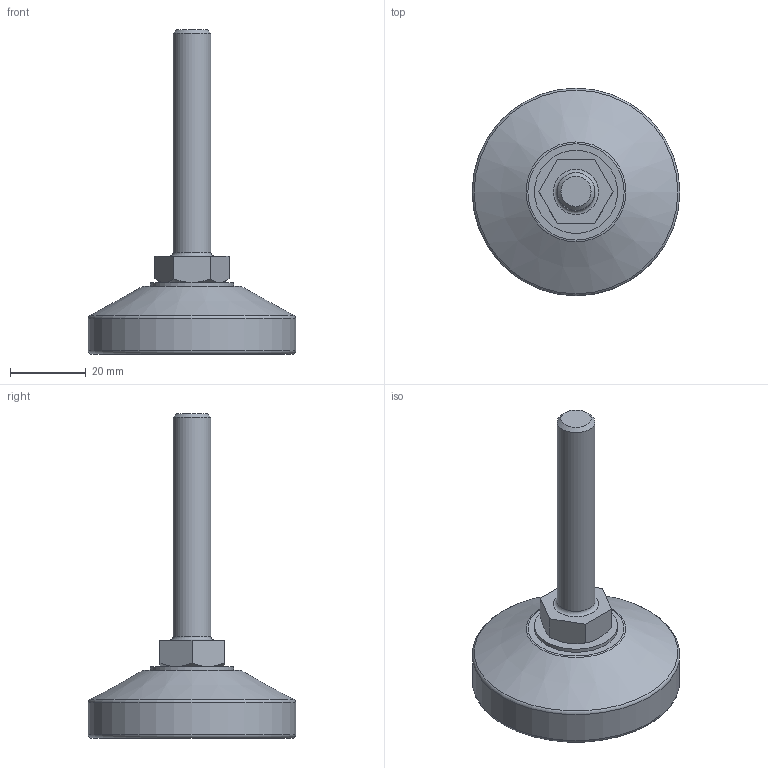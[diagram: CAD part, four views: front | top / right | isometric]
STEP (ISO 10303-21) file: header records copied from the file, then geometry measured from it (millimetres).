
FILE_DESCRIPTION(/* description */ (''),/* implementation_level */ '2;1');
FILE_NAME(/* name */ 'D:\조절자\F\F-M10-60L.stp',/* time_stamp */ '2016-03-14T14:28:53+09:00',/* author */ ('GS-DT-1-001'),/* organization */ (''),/* preprocessor_version */ 'ST-DEVELOPER v15.6',/* originating_system */ 'Autodesk Inventor LT ',/* authorisation */ '');
FILE_SCHEMA (('AUTOMOTIVE_DESIGN { 1 0 10303 214 3 1 1 }'));
Length unit declared in the file: millimetre
Products named in the file (1): F-M10-60L
Bounding box: 55 x 55 x 86 mm (x, y, z)
Volume: 30577.8 mm3; surface area: 11677.8 mm2
Topology: 3 solids, 3 shells, 43 faces, 84 edges, 51 vertices
Faces by surface type: plane 16, cone 13, cylinder 9, torus 5
Full cylindrical faces by diameter (mm): 5.153 x1, 6.1 x1, 6.2 x1, 10 x1, 22 x1, 35 x1, 46 x1, 50 x1, 55 x1
Entity records: 970 total; most frequent: CARTESIAN_POINT 174, DIRECTION 170, ORIENTED_EDGE 118, AXIS2_PLACEMENT_3D 79, EDGE_LOOP 72, EDGE_CURVE 59, VERTEX_POINT 47, FACE_OUTER_BOUND 43
